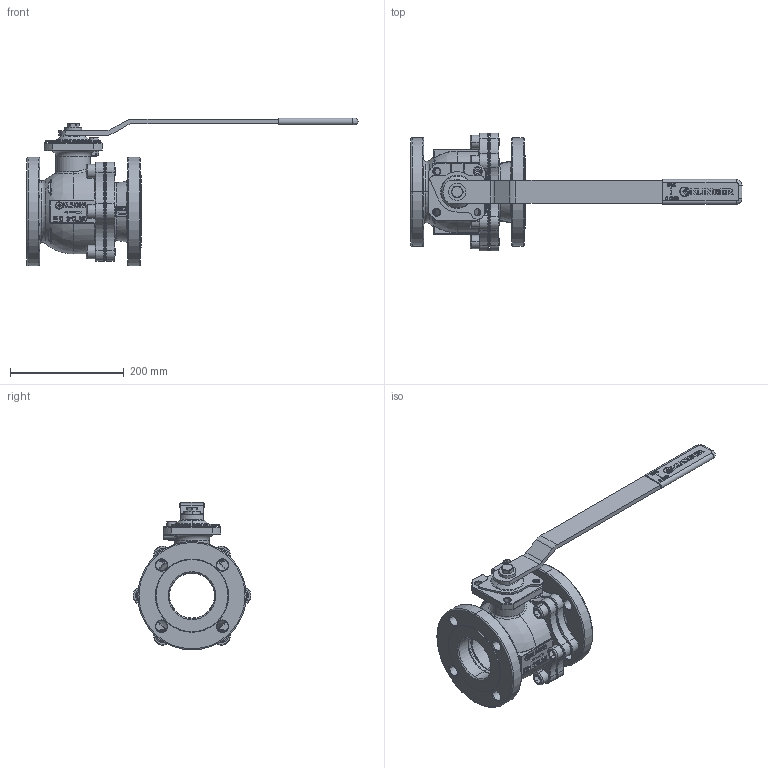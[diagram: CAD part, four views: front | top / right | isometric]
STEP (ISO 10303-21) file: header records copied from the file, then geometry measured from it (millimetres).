
FILE_DESCRIPTION((''),'2;1');
FILE_NAME('KHEFS-3-VFS-3-C150PKK','2015-08-10T',('mahrhauserh'),('RAND'),'PRO/ENGINEER BY PARAMETRIC TECHNOLOGY CORPORATION, 2013410','PRO/ENGINEER BY PARAMETRIC TECHNOLOGY CORPORATION, 2013410','');
FILE_SCHEMA(('CONFIG_CONTROL_DESIGN'));
Products named in the file (1): KHEFS-3-VFS-3-C150PKK
Bounding box: 585 x 207.88 x 260.25 mm (x, y, z)
Volume: 3063266 mm3; surface area: 554099.2 mm2
Topology: 1 solids, 1 shells, 2734 faces, 7311 edges, 4691 vertices
Faces by surface type: plane 1849, cylinder 367, torus 271, cone 128, bspline 103, sphere 16
Entity records: 100979 total; most frequent: CARTESIAN_POINT 32536, ORIENTED_EDGE 14594, DIRECTION 13726, EDGE_CURVE 7297, VECTOR 5376, LINE 5376, VERTEX_POINT 4691, AXIS2_PLACEMENT_3D 4175
